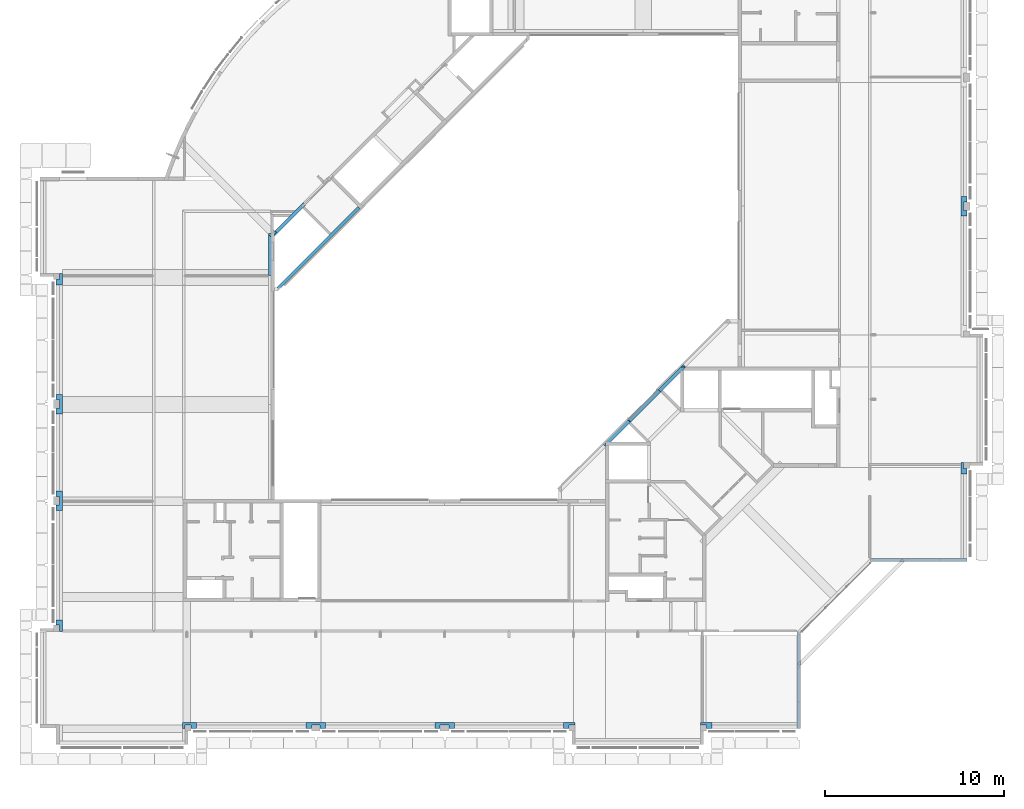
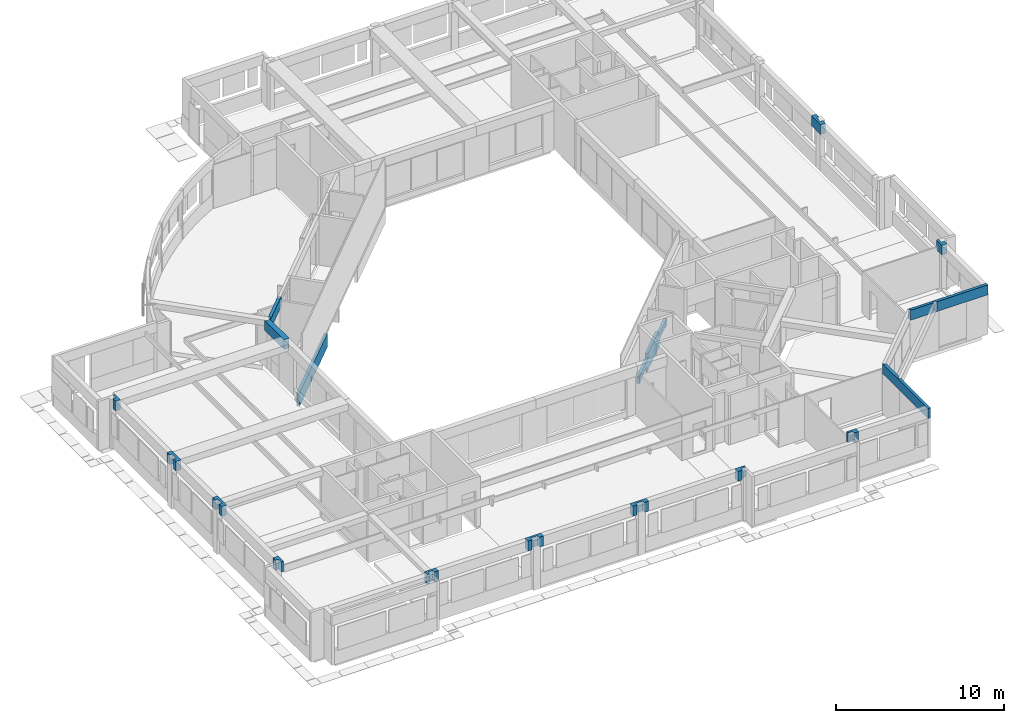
# One storey, part 19 of 26: 17 beams.
"""IFC4X3_ADD2 building model written with IfcOpenShell, lengths in millimetres."""

from ifc_helpers import new_model, si_unit, direction, frame, origin_with_axes, place, context, subcontext, project, spatial, polygons, source, transform, mapped, material, type_object, type_shapes, element, save


model = new_model("IFC4X3_ADD2")

# Units and contexts
model_context = context("Model", 3, precision=1e-05, world=origin_with_axes(), true_north=direction((0.0, 1.0)))
body_context = subcontext(model_context, "Body", "Model", "MODEL_VIEW")
ifc_project = project(units=[si_unit("LENGTHUNIT", "METRE", prefix="MILLI"), si_unit("AREAUNIT", "SQUARE_METRE"), si_unit("VOLUMEUNIT", "CUBIC_METRE"), si_unit("PLANEANGLEUNIT", "RADIAN"), si_unit("TIMEUNIT", "SECOND"), si_unit("MASSUNIT", "GRAM")], contexts=[model_context])

# Site, building, storey
site_placement = place(None, origin_with_axes())
site = spatial("IfcSite", under=ifc_project, at=site_placement, Name="Site", CompositionType="ELEMENT")
building_placement = place(site_placement, origin_with_axes())
building = spatial("IfcBuilding", under=site, at=building_placement, Name="IFC Building Story")
storey_placement = place(building_placement, frame((0.0, 0.0, 7200.0), z_axis=(0.0, 0.0, 1.0), x_axis=(1.0, 0.0, 0.0)))
storey = spatial("IfcBuildingStorey", under=building, at=storey_placement, Name="020", Elevation=7200.0)

# Beams
ifc_material = material(Name="BB_Beton_Bestaand")
beam_type_1 = type_object("IfcBeamType", Name="BB_XX_Betonbalk_ rechthoekig_ center-center_SFB_340 x 720 mm157", PredefinedType="NOTDEFINED")
shared_shape_1 = source(origin_with_axes(), body_context, "Body", "Tessellation", [
    polygons([(-4.33146851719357e-12, 340.000000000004, 720.000000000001), (-4.33146851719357e-12, 340.000000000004, 0.0), (-4.33146851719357e-12, 3.51931817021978e-12, 0.0), (-4.33146851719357e-12, 3.51931817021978e-12, 720.000000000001), (1090.00000000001, 340.000000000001, 720.000000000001), (1090.00000000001, 0.0, 720.000000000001), (1090.00000000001, 0.0, 0.0), (1090.00000000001, 340.000000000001, 0.0), (789.999999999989, 0.0, 0.0), (789.999999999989, 190.000000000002, 0.0), (300.00000000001, 190.000000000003, 0.0), (300.00000000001, 2.5548896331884e-12, 0.0), (300.00000000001, 2.5548896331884e-12, 720.000000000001), (300.00000000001, 190.000000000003, 720.000000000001), (789.999999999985, 190.000000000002, 720.000000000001), (789.999999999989, 0.0, 720.000000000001)], [[[1, 2, 3, 4]], [[5, 6, 7, 8]], [[2, 1, 5, 8]], [[11, 12, 3]], [[11, 3, 2]], [[2, 8, 10]], [[2, 10, 11]], [[8, 7, 9]], [[8, 9, 10]], [[4, 3, 12, 13]], [[15, 16, 6]], [[15, 6, 5]], [[5, 1, 14]], [[5, 14, 15]], [[1, 4, 13]], [[1, 13, 14]], [[11, 14, 13, 12]], [[14, 11, 10, 15]], [[15, 10, 9, 16]], [[7, 6, 16, 9]]]),
])
type_shapes(beam_type_1, [shared_shape_1])
beam_1_placement = place(storey_placement, frame((-36845.0, -95.0, 2680.0), z_axis=(0.0, 0.0, 1.0), x_axis=(1.0, 0.0, 0.0)))
element("IfcBeam", 1, at=beam_1_placement, inside=storey, type_object=beam_type_1, material=ifc_material, Name="BB_XX_Betonbalk, rechthoekig, center-center_SFB:340 x 720 mm", ObjectType="BB_XX_Betonbalk, rechthoekig, center-center_SFB:340 x 720 mm", PredefinedType="BEAM", context=body_context, shape_type="MappedRepresentation", body=[
    mapped(shared_shape_1, transform((0.0, 0.0, 0.0))),
])
beam_type_2 = type_object("IfcBeamType", Name="BB_XX_Betonbalk_ rechthoekig_ center-center_SFB_340 x 720 mm159", PredefinedType="NOTDEFINED")
shared_shape_2 = source(origin_with_axes(), body_context, "Body", "Tessellation", [
    polygons([(-4.33146851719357e-12, 340.000000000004, 720.000000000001), (-4.33146851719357e-12, 340.000000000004, 0.0), (-4.33146851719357e-12, 3.53623796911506e-12, 0.0), (-4.33146851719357e-12, 3.53623796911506e-12, 720.000000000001), (1090.0, 340.000000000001, 720.000000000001), (1090.0, 0.0, 720.000000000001), (1090.0, 0.0, 0.0), (1090.0, 340.000000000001, 0.0), (789.999999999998, 0.0, 0.0), (789.999999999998, 190.0, 0.0), (299.999999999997, 190.0, 0.0), (299.999999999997, 2.57180943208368e-12, 0.0), (299.999999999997, 2.5548896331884e-12, 720.000000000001), (299.999999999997, 190.0, 720.000000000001), (789.999999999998, 190.0, 720.000000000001), (789.999999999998, 0.0, 720.000000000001)], [[[1, 2, 3, 4]], [[5, 6, 7, 8]], [[2, 1, 5, 8]], [[11, 12, 3]], [[11, 3, 2]], [[2, 8, 10]], [[2, 10, 11]], [[8, 7, 9]], [[8, 9, 10]], [[4, 3, 12, 13]], [[15, 16, 6]], [[15, 6, 5]], [[5, 1, 14]], [[5, 14, 15]], [[1, 4, 13]], [[1, 13, 14]], [[15, 10, 9, 16]], [[10, 15, 14, 11]], [[11, 14, 13, 12]], [[7, 6, 16, 9]]]),
])
type_shapes(beam_type_2, [shared_shape_2])
beam_2_placement = place(storey_placement, frame((-29645.0, -95.0, 2680.0), z_axis=(0.0, 0.0, 1.0), x_axis=(1.0, 0.0, 0.0)))
element("IfcBeam", 2, at=beam_2_placement, inside=storey, type_object=beam_type_2, material=ifc_material, Name="BB_XX_Betonbalk, rechthoekig, center-center_SFB:340 x 720 mm", ObjectType="BB_XX_Betonbalk, rechthoekig, center-center_SFB:340 x 720 mm", PredefinedType="BEAM", context=body_context, shape_type="MappedRepresentation", body=[
    mapped(shared_shape_2, transform((0.0, 0.0, 0.0))),
])
beam_type_3 = type_object("IfcBeamType", Name="BB_XX_Betonbalk_ rechthoekig_ center-center_SFB_340 x 720 mm161", PredefinedType="NOTDEFINED")
shared_shape_3 = source(origin_with_axes(), body_context, "Body", "Tessellation", [
    polygons([(0.0, 340.000000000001, 720.000000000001), (0.0, 340.000000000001, 0.0), (0.0, 0.0, 0.0), (0.0, 0.0, 720.000000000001), (639.999999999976, 339.999999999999, 0.0), (639.999999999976, 339.999999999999, 720.000000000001), (639.999999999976, 190.0, 720.000000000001), (639.999999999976, 190.0, 0.0), (300.000000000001, 190.0, 0.0), (300.000000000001, 0.0, 0.0), (300.000000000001, 0.0, 720.000000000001), (300.000000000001, 190.0, 720.000000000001)], [[[1, 2, 3, 4]], [[5, 6, 7, 8]], [[2, 1, 6, 5]], [[9, 10, 3]], [[9, 3, 2]], [[2, 5, 8]], [[2, 8, 9]], [[4, 3, 10, 11]], [[12, 7, 6]], [[12, 6, 1]], [[1, 4, 11]], [[1, 11, 12]], [[9, 12, 11, 10]], [[12, 9, 8, 7]]]),
])
type_shapes(beam_type_3, [shared_shape_3])
beam_3_placement = place(storey_placement, frame((-22445.0, -95.0, 2680.0), z_axis=(0.0, 0.0, 1.0), x_axis=(1.0, 0.0, 0.0)))
element("IfcBeam", 3, at=beam_3_placement, inside=storey, type_object=beam_type_3, material=ifc_material, Name="BB_XX_Betonbalk, rechthoekig, center-center_SFB:340 x 720 mm", ObjectType="BB_XX_Betonbalk, rechthoekig, center-center_SFB:340 x 720 mm", PredefinedType="BEAM", context=body_context, shape_type="MappedRepresentation", body=[
    mapped(shared_shape_3, transform((0.0, 0.0, 0.0))),
])
beam_type_4 = type_object("IfcBeamType", Name="BB_XX_Betonbalk_ rechthoekig_ center-center_SFB_340 x 720 mm163", PredefinedType="NOTDEFINED")
shared_shape_4 = source(origin_with_axes(), body_context, "Body", "Tessellation", [
    polygons([(2.16573425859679e-12, 340.000000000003, 720.000000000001), (2.16573425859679e-12, 340.000000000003, 0.0), (2.16573425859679e-12, 190.000000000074, 0.0), (2.16573425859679e-12, 190.000000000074, 720.000000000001), (639.999999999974, 340.000000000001, 720.000000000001), (639.999999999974, 0.0, 720.000000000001), (639.999999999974, 0.0, 0.0), (639.999999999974, 340.000000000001, 0.0), (339.999999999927, 0.0, 0.0), (339.999999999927, 190.000000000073, 0.0), (339.999999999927, 0.0, 720.000000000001), (339.999999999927, 190.000000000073, 720.000000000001)], [[[1, 2, 3, 4]], [[5, 6, 7, 8]], [[2, 1, 5, 8]], [[10, 3, 2]], [[10, 2, 8]], [[8, 7, 9]], [[8, 9, 10]], [[7, 6, 11, 9]], [[12, 11, 6]], [[12, 6, 5]], [[5, 1, 4]], [[5, 4, 12]], [[10, 12, 4, 3]], [[12, 10, 9, 11]]]),
])
type_shapes(beam_type_4, [shared_shape_4])
beam_4_placement = place(storey_placement, frame((-14795.0, -95.0, 2680.0), z_axis=(0.0, 0.0, 1.0), x_axis=(1.0, 0.0, 0.0)))
element("IfcBeam", 4, at=beam_4_placement, inside=storey, type_object=beam_type_4, material=ifc_material, Name="BB_XX_Betonbalk, rechthoekig, center-center_SFB:340 x 720 mm", ObjectType="BB_XX_Betonbalk, rechthoekig, center-center_SFB:340 x 720 mm", PredefinedType="BEAM", context=body_context, shape_type="MappedRepresentation", body=[
    mapped(shared_shape_4, transform((0.0, 0.0, 0.0))),
])
beam_type_5 = type_object("IfcBeamType", Name="BB_XX_Betonbalk_ rechthoekig_ center-center_SFB_190 x 720 mm23", PredefinedType="NOTDEFINED")
shared_shape_5 = source(origin_with_axes(), body_context, "Body", "Tessellation", [
    polygons([(189.999999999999, 0.0, 720.000000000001), (1.08286712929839e-12, 0.0, 720.000000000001), (1.08286712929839e-12, 0.0, 0.0), (190.0, 0.0, 0.0), (190.00000000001, 5319.99999999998, 0.0), (190.00000000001, 5319.99999999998, 720.000000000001), (190.000000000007, 3767.6955262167, 720.000000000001), (190.000000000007, 3767.6955262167, 150.0), (190.000000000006, 3498.99494936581, 150.0), (190.000000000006, 3498.99494936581, 720.000000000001), (1.06120978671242e-10, 5385.00000000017, 0.0), (127.500000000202, 5257.50000000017, 0.0), (1.06120978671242e-10, 5385.00000000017, 720.000000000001), (171.512413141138, 3480.50736250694, 720.000000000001), (37.1621247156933, 3614.85765093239, 720.000000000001), (127.500000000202, 5257.50000000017, 720.000000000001), (37.1621247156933, 3614.85765093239, 150.0), (171.512413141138, 3480.50736250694, 150.0)], [[[1, 2, 3, 4]], [[9, 10, 1]], [[9, 1, 4]], [[4, 8, 9]], [[4, 5, 8]], [[5, 6, 7]], [[5, 7, 8]], [[12, 5, 4]], [[4, 3, 11]], [[4, 11, 12]], [[3, 2, 13, 11]], [[16, 13, 15]], [[16, 15, 7]], [[7, 6, 16]], [[15, 13, 2]], [[2, 1, 14]], [[2, 14, 15]], [[1, 10, 14]], [[16, 12, 11, 13]], [[12, 16, 6, 5]], [[17, 15, 14, 18]], [[18, 14, 10, 9]], [[17, 18, 9, 8]], [[15, 17, 8, 7]]]),
])
type_shapes(beam_type_5, [shared_shape_5])
beam_5_placement = place(storey_placement, frame((-9415.0, -95.0, 2680.0), z_axis=(0.0, 0.0, 1.0), x_axis=(1.0, 0.0, 0.0)))
element("IfcBeam", 5, at=beam_5_placement, inside=storey, type_object=beam_type_5, material=ifc_material, Name="BB_XX_Betonbalk, rechthoekig, center-center_SFB:190 x 720 mm", ObjectType="BB_XX_Betonbalk, rechthoekig, center-center_SFB:190 x 720 mm", PredefinedType="BEAM", context=body_context, shape_type="MappedRepresentation", body=[
    mapped(shared_shape_5, transform((0.0, 0.0, 0.0))),
])
beam_type_6 = type_object("IfcBeamType", Name="BB_XX_Betonbalk_ rechthoekig_ center-center_SFB_340 x 720 mm165", PredefinedType="NOTDEFINED")
shared_shape_6 = source(origin_with_axes(), body_context, "Body", "Tessellation", [
    polygons([(339.999999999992, 0.0, 0.0), (339.999999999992, 0.0, 720.000000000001), (190.0, 0.0, 720.000000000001), (190.0, 0.0, 0.0), (-8.66293703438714e-12, 640.0, 720.000000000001), (339.999999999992, 640.0, 720.000000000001), (339.999999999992, 640.0, 0.0), (-8.66293703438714e-12, 640.0, 0.0), (0.0, 340.000000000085, 0.0), (-8.66293703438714e-12, 340.000000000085, 720.000000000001), (190.0, 340.000000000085, 0.0), (190.0, 340.000000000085, 720.000000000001)], [[[1, 2, 3, 4]], [[5, 6, 7, 8]], [[5, 8, 9, 10]], [[11, 9, 8]], [[11, 8, 7]], [[7, 1, 4]], [[7, 4, 11]], [[2, 1, 7, 6]], [[12, 3, 2]], [[12, 2, 6]], [[6, 5, 10]], [[6, 10, 12]], [[12, 11, 4, 3]], [[11, 12, 10, 9]]]),
])
type_shapes(beam_type_6, [shared_shape_6])
beam_6_placement = place(storey_placement, frame((-50795.0, 5335.0, 2680.0), z_axis=(0.0, 0.0, 1.0), x_axis=(1.0, 0.0, 0.0)))
element("IfcBeam", 6, at=beam_6_placement, inside=storey, type_object=beam_type_6, material=ifc_material, Name="BB_XX_Betonbalk, rechthoekig, center-center_SFB:340 x 720 mm", ObjectType="BB_XX_Betonbalk, rechthoekig, center-center_SFB:340 x 720 mm", PredefinedType="BEAM", context=body_context, shape_type="MappedRepresentation", body=[
    mapped(shared_shape_6, transform((0.0, 0.0, 0.0))),
])
beam_type_7 = type_object("IfcBeamType", Name="BB_XX_Betonbalk_ rechthoekig_ center-center_SFB_340 x 720 mm169", PredefinedType="NOTDEFINED")
shared_shape_7 = source(origin_with_axes(), body_context, "Body", "Tessellation", [
    polygons([(340.000000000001, 1090.0, 720.000000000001), (340.000000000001, 1090.0, 0.0), (0.0, 1090.0, 0.0), (0.0, 1090.0, 720.000000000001), (340.000000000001, 0.0, 720.000000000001), (0.0, 0.0, 720.000000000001), (0.0, 0.0, 0.0), (340.000000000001, 0.0, 0.0), (0.0, 300.000000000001, 0.0), (190.000000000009, 300.000000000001, 0.0), (190.000000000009, 789.999999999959, 0.0), (0.0, 789.999999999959, 0.0), (0.0, 789.999999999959, 720.000000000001), (190.000000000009, 789.999999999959, 720.000000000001), (190.000000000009, 300.000000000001, 720.000000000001), (0.0, 300.000000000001, 720.000000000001)], [[[1, 2, 3, 4]], [[5, 6, 7, 8]], [[2, 1, 5, 8]], [[11, 12, 3]], [[11, 3, 2]], [[2, 8, 10]], [[2, 10, 11]], [[8, 7, 9]], [[8, 9, 10]], [[4, 3, 12, 13]], [[15, 16, 6]], [[15, 6, 5]], [[5, 1, 14]], [[5, 14, 15]], [[1, 4, 13]], [[1, 13, 14]], [[10, 15, 14, 11]], [[11, 14, 13, 12]], [[15, 10, 9, 16]], [[7, 6, 16, 9]]]),
])
type_shapes(beam_type_7, [shared_shape_7])
beam_7_placement = place(storey_placement, frame((-50795.0, 12085.0, 2680.0), z_axis=(0.0, 0.0, 1.0), x_axis=(1.0, 0.0, 0.0)))
element("IfcBeam", 7, at=beam_7_placement, inside=storey, type_object=beam_type_7, material=ifc_material, Name="BB_XX_Betonbalk, rechthoekig, center-center_SFB:340 x 720 mm", ObjectType="BB_XX_Betonbalk, rechthoekig, center-center_SFB:340 x 720 mm", PredefinedType="BEAM", context=body_context, shape_type="MappedRepresentation", body=[
    mapped(shared_shape_7, transform((0.0, 0.0, 0.0))),
])
beam_type_8 = type_object("IfcBeamType", Name="BB_XX_Betonbalk_ rechthoekig_ center-center_SFB_340 x 720 mm171", PredefinedType="NOTDEFINED")
shared_shape_8 = source(origin_with_axes(), body_context, "Body", "Tessellation", [
    polygons([(339.999999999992, 1090.0, 720.000000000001), (339.999999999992, 1090.0, 0.0), (-8.66293703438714e-12, 1090.0, 0.0), (-8.66293703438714e-12, 1090.0, 720.000000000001), (339.999999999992, 0.0, 720.000000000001), (-8.66293703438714e-12, 0.0, 720.000000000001), (-8.66293703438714e-12, 0.0, 0.0), (339.999999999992, 0.0, 0.0), (-8.66293703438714e-12, 300.000000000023, 0.0), (190.0, 300.000000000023, 0.0), (190.0, 789.999999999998, 0.0), (-8.66293703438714e-12, 789.999999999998, 0.0), (-8.66293703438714e-12, 789.999999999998, 720.000000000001), (190.0, 789.999999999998, 720.000000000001), (190.0, 300.000000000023, 720.000000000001), (-8.66293703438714e-12, 300.000000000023, 720.000000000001)], [[[1, 2, 3, 4]], [[5, 6, 7, 8]], [[2, 1, 5, 8]], [[11, 12, 3]], [[11, 3, 2]], [[2, 8, 10]], [[2, 10, 11]], [[8, 7, 9]], [[8, 9, 10]], [[4, 3, 12, 13]], [[15, 16, 6]], [[15, 6, 5]], [[5, 1, 14]], [[5, 14, 15]], [[1, 4, 13]], [[1, 13, 14]], [[10, 15, 14, 11]], [[11, 14, 13, 12]], [[15, 10, 9, 16]], [[7, 6, 16, 9]]]),
])
type_shapes(beam_type_8, [shared_shape_8])
beam_8_placement = place(storey_placement, frame((-50795.0, 17485.0, 2680.0), z_axis=(0.0, 0.0, 1.0), x_axis=(1.0, 0.0, 0.0)))
element("IfcBeam", 8, at=beam_8_placement, inside=storey, type_object=beam_type_8, material=ifc_material, Name="BB_XX_Betonbalk, rechthoekig, center-center_SFB:340 x 720 mm", ObjectType="BB_XX_Betonbalk, rechthoekig, center-center_SFB:340 x 720 mm", PredefinedType="BEAM", context=body_context, shape_type="MappedRepresentation", body=[
    mapped(shared_shape_8, transform((0.0, 0.0, 0.0))),
])
beam_type_9 = type_object("IfcBeamType", Name="BB_XX_Betonbalk_ rechthoekig_ center-center_SFB_340 x 720 mm173", PredefinedType="NOTDEFINED")
shared_shape_9 = source(origin_with_axes(), body_context, "Body", "Tessellation", [
    polygons([(340.000000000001, 640.000000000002, 720.000000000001), (340.000000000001, 640.000000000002, 0.0), (190.000000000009, 640.000000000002, 0.0), (190.000000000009, 640.000000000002, 720.000000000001), (340.000000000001, 0.0, 720.000000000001), (0.0, 0.0, 720.000000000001), (0.0, 0.0, 0.0), (340.000000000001, 0.0, 0.0), (0.0, 300.000000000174, 0.0), (190.000000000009, 300.000000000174, 0.0), (0.0, 300.000000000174, 720.000000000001), (190.000000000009, 300.000000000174, 720.000000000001)], [[[1, 2, 3, 4]], [[5, 6, 7, 8]], [[2, 1, 5, 8]], [[10, 3, 2]], [[10, 2, 8]], [[8, 7, 9]], [[8, 9, 10]], [[7, 6, 11, 9]], [[12, 11, 6]], [[12, 6, 5]], [[5, 1, 4]], [[5, 4, 12]], [[10, 12, 4, 3]], [[12, 10, 9, 11]]]),
])
type_shapes(beam_type_9, [shared_shape_9])
beam_9_placement = place(storey_placement, frame((-50795.0, 24685.0, 2680.0), z_axis=(0.0, 0.0, 1.0), x_axis=(1.0, 0.0, 0.0)))
element("IfcBeam", 9, at=beam_9_placement, inside=storey, type_object=beam_type_9, material=ifc_material, Name="BB_XX_Betonbalk, rechthoekig, center-center_SFB:340 x 720 mm", ObjectType="BB_XX_Betonbalk, rechthoekig, center-center_SFB:340 x 720 mm", PredefinedType="BEAM", context=body_context, shape_type="MappedRepresentation", body=[
    mapped(shared_shape_9, transform((0.0, 0.0, 0.0))),
])
beam_type_10 = type_object("IfcBeamType", Name="BB_XX_Betonbalk_ rechthoekig_ center-center_SFB_190 x 720 mm25", PredefinedType="NOTDEFINED")
shared_shape_10 = source(origin_with_axes(), body_context, "Body", "Tessellation", [
    polygons([(5384.99999999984, 189.999999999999, 720.000000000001), (5384.99999999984, 1.08286712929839e-12, 720.000000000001), (5384.99999999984, 1.08286712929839e-12, 0.0), (5384.99999999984, 190.0, 0.0), (1.08286712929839e-11, 190.000000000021, 0.0), (1.08286712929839e-11, 190.000000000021, 720.000000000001), (64.9999999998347, 1.84087411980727e-11, 0.0), (127.49999999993, 62.5000000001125, 0.0), (1886.005050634, 1.19115384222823e-11, 720.000000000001), (1886.005050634, 1.19115384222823e-11, 150.0), (1617.30447378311, 1.40772726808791e-11, 150.0), (1617.30447378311, 1.40772726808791e-11, 720.000000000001), (64.9999999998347, 1.84087411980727e-11, 720.000000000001), (127.49999999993, 62.5000000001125, 720.000000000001), (1763.47073903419, 146.166265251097, 720.000000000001), (1897.82102745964, 11.8159768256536, 720.000000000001), (1897.82102745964, 11.8159768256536, 150.0), (1763.47073903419, 146.166265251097, 150.0)], [[[1, 2, 3, 4]], [[1, 4, 5, 6]], [[8, 5, 4]], [[8, 4, 3]], [[3, 7, 8]], [[11, 12, 13]], [[11, 13, 7]], [[7, 10, 11]], [[10, 7, 3]], [[3, 2, 9]], [[3, 9, 10]], [[14, 13, 12]], [[16, 9, 2]], [[2, 1, 15]], [[2, 15, 16]], [[1, 6, 15]], [[6, 14, 12]], [[6, 12, 15]], [[8, 14, 6, 5]], [[14, 8, 7, 13]], [[17, 16, 15, 18]], [[16, 17, 10, 9]], [[17, 18, 11, 10]], [[18, 15, 12, 11]]]),
])
type_shapes(beam_type_10, [shared_shape_10])
beam_10_placement = place(storey_placement, frame((-5290.0, 9225.0, 2680.0), z_axis=(0.0, 0.0, 1.0), x_axis=(1.0, 0.0, 0.0)))
element("IfcBeam", 10, at=beam_10_placement, inside=storey, type_object=beam_type_10, material=ifc_material, Name="BB_XX_Betonbalk, rechthoekig, center-center_SFB:190 x 720 mm", ObjectType="BB_XX_Betonbalk, rechthoekig, center-center_SFB:190 x 720 mm", PredefinedType="BEAM", context=body_context, shape_type="MappedRepresentation", body=[
    mapped(shared_shape_10, transform((0.0, 0.0, 0.0))),
])
beam_type_11 = type_object("IfcBeamType", Name="BB_XX_Betonbalk_ rechthoekig_ center-center_SFB_340 x 720 mm189", PredefinedType="NOTDEFINED")
shared_shape_11 = source(origin_with_axes(), body_context, "Body", "Tessellation", [
    polygons([(340.000000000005, 2350.0, 4.33146851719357e-12), (290.000000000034, 2350.0, 4.33146851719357e-12), (235.18723239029, 2350.0, 4.33146851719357e-12), (199.163056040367, 2350.0, 4.33146851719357e-12), (150.000000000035, 2350.0, 4.33146851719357e-12), (4.33146851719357e-12, 2350.0, 4.33146851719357e-12), (4.33146851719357e-12, 2350.0, 320.00000000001), (150.000000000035, 2350.0, 320.00000000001), (235.187232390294, 2350.0, 320.00000000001), (290.000000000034, 2350.0, 320.00000000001), (340.000000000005, 2350.0, 320.00000000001), (340.000000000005, 4.33146851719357e-12, 720.000000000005), (4.33146851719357e-12, 4.33146851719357e-12, 720.000000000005), (4.33146851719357e-12, 4.33146851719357e-12, 4.33146851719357e-12), (340.000000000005, 4.33146851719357e-12, 4.33146851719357e-12), (340.000000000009, 2245.18723239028, 4.33146851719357e-12), (340.000000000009, 2305.49463840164, 320.00000000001), (340.000000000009, 2305.49463840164, 720.000000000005), (340.000000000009, 2245.18723239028, 720.000000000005), (1.29944055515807e-11, 2322.13208940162, 720.000000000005), (1.29944055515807e-11, 2322.13208940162, 320.00000000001), (178.318725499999, 2143.81336390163, 720.000000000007), (178.318725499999, 2143.81336390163, 320.00000000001)], [[[5, 6, 7]], [[5, 7, 8]], [[8, 9, 4]], [[8, 4, 5]], [[9, 3, 4]], [[9, 10, 2]], [[9, 2, 3]], [[10, 11, 1]], [[10, 1, 2]], [[12, 13, 14, 15]], [[17, 18, 19]], [[17, 19, 16]], [[16, 1, 17]], [[1, 11, 17]], [[19, 12, 15]], [[19, 15, 16]], [[16, 15, 2]], [[2, 1, 16]], [[15, 3, 2]], [[15, 4, 3]], [[15, 14, 5]], [[15, 5, 4]], [[14, 6, 5]], [[21, 7, 6]], [[21, 6, 14]], [[14, 13, 20]], [[14, 20, 21]], [[19, 18, 22]], [[22, 20, 13]], [[22, 13, 12]], [[12, 19, 22]], [[23, 22, 18, 17]], [[22, 23, 21, 20]], [[8, 7, 21]], [[21, 23, 17]], [[21, 17, 9]], [[21, 9, 8]], [[17, 10, 9]], [[17, 11, 10]]]),
])
type_shapes(beam_type_11, [shared_shape_11])
beam_11_placement = place(storey_placement, frame((-38945.0, 25200.0, 2680.0), z_axis=(0.0, 0.0, 1.0), x_axis=(1.0, 0.0, 0.0)))
element("IfcBeam", 11, at=beam_11_placement, inside=storey, type_object=beam_type_11, material=ifc_material, Name="BB_XX_Betonbalk, rechthoekig, center-center_SFB:340 x 720 mm", ObjectType="BB_XX_Betonbalk, rechthoekig, center-center_SFB:340 x 720 mm", PredefinedType="BEAM", context=body_context, shape_type="MappedRepresentation", body=[
    mapped(shared_shape_11, transform((0.0, 0.0, 0.0))),
])
beam_type_12 = type_object("IfcBeamType", Name="BB_XX_Betonbalk_ rechthoekig_ center-center_SFB_340 x 720 mm199", PredefinedType="NOTDEFINED")
shared_shape_12 = source(origin_with_axes(), body_context, "Body", "Tessellation", [
    polygons([(790.000000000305, 0.0, 720.000000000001), (790.000000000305, 0.0, 0.0), (790.000000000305, 340.000000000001, 0.0), (790.000000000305, 340.000000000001, 720.000000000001), (0.0, 3.09632319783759e-12, 720.000000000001), (0.0, 340.000000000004, 720.000000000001), (0.0, 340.000000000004, 0.0), (0.0, 3.09632319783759e-12, 0.0), (490.00000000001, 1.18438592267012e-12, 720.000000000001), (490.00000000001, 1.18438592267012e-12, 0.0), (490.00000000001, 190.000000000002, 0.0), (150.0, 190.000000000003, 0.0), (150.0, 2.50413023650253e-12, 0.0), (150.0, 2.50413023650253e-12, 720.000000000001), (150.0, 190.000000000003, 720.000000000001), (490.00000000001, 190.000000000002, 720.000000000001)], [[[1, 2, 3, 4]], [[5, 6, 7, 8]], [[2, 1, 9, 10]], [[12, 13, 8]], [[12, 8, 7]], [[7, 3, 11]], [[7, 11, 12]], [[3, 2, 10]], [[3, 10, 11]], [[4, 3, 7, 6]], [[16, 9, 1]], [[16, 1, 4]], [[4, 6, 15]], [[4, 15, 16]], [[6, 5, 14]], [[6, 14, 15]], [[16, 11, 10, 9]], [[11, 16, 15, 12]], [[12, 15, 14, 13]], [[5, 8, 13, 14]]]),
])
type_shapes(beam_type_12, [shared_shape_12])
beam_12_placement = place(storey_placement, frame((-43745.0, -95.0, 2680.0), z_axis=(0.0, 0.0, 1.0), x_axis=(1.0, 0.0, 0.0)))
element("IfcBeam", 12, at=beam_12_placement, inside=storey, type_object=beam_type_12, material=ifc_material, Name="BB_XX_Betonbalk, rechthoekig, center-center_SFB:340 x 720 mm", ObjectType="BB_XX_Betonbalk, rechthoekig, center-center_SFB:340 x 720 mm", PredefinedType="BEAM", context=body_context, shape_type="MappedRepresentation", body=[
    mapped(shared_shape_12, transform((0.0, 0.0, 0.0))),
])
beam_type_13 = type_object("IfcBeamType", Name="BB_XX_Betonbalk_ rechthoekig_ center-center_SFB_200 x 720 mm37", PredefinedType="NOTDEFINED")
shared_shape_13 = source(origin_with_axes(), body_context, "Body", "Tessellation", [
    polygons([(1871.13131605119, 1729.70995981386, 0.0), (1871.13131605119, 1729.70995981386, -720.000000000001), (1729.70995981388, 1871.13131605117, -720.000000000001), (1729.70995981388, 1871.13131605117, 0.0), (141.421356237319, 0.0, -720.000000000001), (141.421356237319, 0.0, 0.0), (122.824855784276, 18.5965004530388, 0.0), (122.824855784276, 18.5965004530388, -720.000000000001), (122.824855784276, 123.409268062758, -720.000000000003), (18.0120881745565, 123.409268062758, -720.000000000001), (1.29944055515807e-11, 141.42135623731, -720.000000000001), (4.33146851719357e-12, 141.42135623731, -400.0), (151.315140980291, 292.736497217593, -400.0), (151.315140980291, 292.736497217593, 0.0), (243.986293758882, 200.065344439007, 0.0), (122.824855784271, 78.9039064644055, 0.0), (243.986293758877, 200.065344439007, -400.0), (122.824855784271, 78.9039064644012, -400.0), (18.0120881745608, 123.409268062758, -400.0), (122.824855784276, 123.409268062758, -400.0)], [[[1, 2, 3, 4]], [[5, 6, 7, 8]], [[2, 1, 6, 5]], [[9, 10, 11]], [[9, 11, 3]], [[3, 2, 5]], [[3, 5, 8]], [[3, 8, 9]], [[13, 14, 4]], [[13, 4, 3]], [[3, 11, 13]], [[11, 12, 13]], [[15, 16, 7]], [[15, 7, 6]], [[15, 6, 1]], [[1, 4, 14]], [[1, 14, 15]], [[15, 17, 18, 16]], [[20, 18, 17]], [[17, 13, 12]], [[17, 12, 19]], [[17, 19, 20]], [[17, 15, 14, 13]], [[9, 20, 19, 10]], [[18, 20, 9]], [[18, 9, 8]], [[8, 7, 16]], [[8, 16, 18]], [[12, 11, 10, 19]]]),
])
type_shapes(beam_type_13, [shared_shape_13])
beam_13_placement = place(storey_placement, frame((-38727.8248557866, 27426.5907319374, 3400.0), z_axis=(0.0, 0.0, 1.0), x_axis=(1.0, 0.0, 0.0)))
element("IfcBeam", 13, at=beam_13_placement, inside=storey, type_object=beam_type_13, material=ifc_material, Name="BB_XX_Betonbalk, rechthoekig, center-center_SFB:200 x 720 mm", ObjectType="BB_XX_Betonbalk, rechthoekig, center-center_SFB:200 x 720 mm", PredefinedType="BEAM", context=body_context, shape_type="MappedRepresentation", body=[
    mapped(shared_shape_13, transform((0.0, 0.0, 0.0))),
])
beam_type_14 = type_object("IfcBeamType", Name="BB_XX_Betonbalk_ rechthoekig_ center-center_SFB_340 x 720 mm201", PredefinedType="NOTDEFINED")
shared_shape_14 = source(origin_with_axes(), body_context, "Body", "Tessellation", [
    polygons([(0.0, 0.0, 720.000000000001), (0.0, 0.0, 0.0), (340.000000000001, 0.0, 0.0), (340.000000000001, 0.0, 720.000000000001), (1.75965908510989e-12, 1090.0, 720.000000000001), (340.000000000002, 1090.0, 720.000000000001), (340.000000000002, 1090.0, 0.0), (1.75965908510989e-12, 1090.0, 0.0), (340.000000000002, 790.000000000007, 0.0), (149.999999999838, 790.000000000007, 0.0), (149.999999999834, 300.000000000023, 0.0), (340.000000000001, 300.000000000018, 0.0), (340.000000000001, 300.000000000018, 720.000000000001), (149.999999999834, 300.000000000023, 720.000000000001), (149.999999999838, 790.000000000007, 720.000000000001), (340.000000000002, 790.000000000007, 720.000000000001)], [[[1, 2, 3, 4]], [[5, 6, 7, 8]], [[2, 1, 5, 8]], [[11, 12, 3]], [[11, 3, 2]], [[2, 8, 10]], [[2, 10, 11]], [[8, 7, 9]], [[8, 9, 10]], [[4, 3, 12, 13]], [[15, 16, 6]], [[15, 6, 5]], [[5, 1, 14]], [[5, 14, 15]], [[1, 4, 13]], [[1, 13, 14]], [[11, 14, 13, 12]], [[15, 10, 9, 16]], [[14, 11, 10, 15]], [[7, 6, 16, 9]]]),
])
type_shapes(beam_type_14, [shared_shape_14])
beam_14_placement = place(storey_placement, frame((-245.0, 28535.0, 2680.0), z_axis=(0.0, 0.0, 1.0), x_axis=(1.0, 0.0, 0.0)))
element("IfcBeam", 14, at=beam_14_placement, inside=storey, type_object=beam_type_14, material=ifc_material, Name="BB_XX_Betonbalk, rechthoekig, center-center_SFB:340 x 720 mm", ObjectType="BB_XX_Betonbalk, rechthoekig, center-center_SFB:340 x 720 mm", PredefinedType="BEAM", context=body_context, shape_type="MappedRepresentation", body=[
    mapped(shared_shape_14, transform((0.0, 0.0, 0.0))),
])
beam_type_15 = type_object("IfcBeamType", Name="BB_XX_Betonbalk_ rechthoekig_ center-center_SFB_340 x 720 mm209", PredefinedType="NOTDEFINED")
shared_shape_15 = source(origin_with_axes(), body_context, "Body", "Tessellation", [
    polygons([(0.0, 0.0, 720.000000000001), (0.0, 0.0, 0.0), (340.000000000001, 0.0, 0.0), (340.000000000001, 0.0, 720.000000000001), (1.04902753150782e-12, 640.000000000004, 0.0), (1.04902753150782e-12, 640.000000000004, 720.000000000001), (150.000000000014, 640.000000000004, 720.000000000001), (150.000000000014, 640.000000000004, 0.0), (150.000000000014, 300.000000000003, 0.0), (340.000000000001, 300.000000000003, 0.0), (340.000000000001, 300.000000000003, 720.000000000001), (150.000000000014, 300.000000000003, 720.000000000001)], [[[1, 2, 3, 4]], [[5, 6, 7, 8]], [[2, 1, 6, 5]], [[9, 10, 3]], [[9, 3, 2]], [[2, 5, 8]], [[2, 8, 9]], [[4, 3, 10, 11]], [[12, 7, 6]], [[12, 6, 1]], [[1, 4, 11]], [[1, 11, 12]], [[9, 12, 11, 10]], [[12, 9, 8, 7]]]),
])
type_shapes(beam_type_15, [shared_shape_15])
beam_15_placement = place(storey_placement, frame((-245.0, 14135.0, 2680.0), z_axis=(0.0, 0.0, 1.0), x_axis=(1.0, 0.0, 0.0)))
element("IfcBeam", 15, at=beam_15_placement, inside=storey, type_object=beam_type_15, material=ifc_material, Name="BB_XX_Betonbalk, rechthoekig, center-center_SFB:340 x 720 mm", ObjectType="BB_XX_Betonbalk, rechthoekig, center-center_SFB:340 x 720 mm", PredefinedType="BEAM", context=body_context, shape_type="MappedRepresentation", body=[
    mapped(shared_shape_15, transform((0.0, 0.0, 0.0))),
])
beam_type_16 = type_object("IfcBeamType", Name="BB_XX_Betonbalk_ rechthoekig_ center-center_SFB_190 x 1000 mm3", PredefinedType="NOTDEFINED")
shared_shape_16 = source(origin_with_axes(), body_context, "Body", "Tessellation", [
    polygons([(4657.8504130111, 4584.95891814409, 1000.0000000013), (4657.85041301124, 4584.95891814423, 1.30160628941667e-09), (4523.50012458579, 4719.30920656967, 1.30160628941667e-09), (4523.50012458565, 4719.30920656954, 1000.0000000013), (72.89149486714, 1.42938461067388e-10, 0.0), (72.8914948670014, 0.0, 1000.0), (72.2519174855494, 0.639577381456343, 1000.0), (72.2519174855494, 0.63957738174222, 0.0), (72.2519174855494, 195.809081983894, 2.16573425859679e-11), (4.33146851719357e-12, 195.809081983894, 1.84087411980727e-11), (4.33146851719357e-12, 195.809081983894, 1000.00000000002), (72.2519174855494, 195.809081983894, 1000.00000000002)], [[[1, 2, 3, 4]], [[5, 6, 7, 8]], [[2, 1, 6, 5]], [[9, 10, 3]], [[3, 2, 5]], [[3, 5, 8]], [[3, 8, 9]], [[4, 3, 10, 11]], [[12, 7, 6]], [[12, 6, 1]], [[12, 1, 4]], [[4, 11, 12]], [[12, 9, 8, 7]], [[9, 12, 11, 10]]]),
])
type_shapes(beam_type_16, [shared_shape_16])
beam_16_placement = place(storey_placement, frame((-38473.965971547, 24359.1909180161, -1200.0), z_axis=(0.0, 0.0, 1.0), x_axis=(1.0, 0.0, 0.0)))
element("IfcBeam", 16, at=beam_16_placement, inside=storey, type_object=beam_type_16, material=ifc_material, Name="BB_XX_Betonbalk, rechthoekig, center-center_SFB:190 x 1000 mm", ObjectType="BB_XX_Betonbalk, rechthoekig, center-center_SFB:190 x 1000 mm", PredefinedType="BEAM", context=body_context, shape_type="MappedRepresentation", body=[
    mapped(shared_shape_16, transform((0.0, 0.0, 0.0))),
])
beam_type_17 = type_object("IfcBeamType", Name="BB_XX_Betonbalk_ rechthoekig_ center-center_SFB_190 x 1180 mm1", PredefinedType="NOTDEFINED")
shared_shape_17 = source(origin_with_axes(), body_context, "Body", "Tessellation", [
    polygons([(0.0, 134.350288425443, 330.000000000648), (134.350288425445, 2.16573425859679e-12, 330.000000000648), (134.350288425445, 2.16573425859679e-12, 729.999999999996), (0.0, 134.350288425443, 729.999999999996), (4603.07872619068, 4468.72843776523, 330.000000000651), (4468.72843776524, 4603.07872619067, 330.000000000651), (4468.72843776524, 4603.07872619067, 729.999999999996), (4603.07872619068, 4468.72843776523, 729.999999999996), (1245.09175899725, 1379.44204742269, 0.0), (1245.09175899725, 1379.44204742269, 450.000000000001), (145.143595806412, 279.493884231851, 450.000000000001), (145.143595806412, 279.493884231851, 330.000000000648), (134.791933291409, 269.142221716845, 729.999999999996), (134.791933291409, 269.142221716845, 849.999999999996), (145.143595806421, 279.493884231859, 849.999999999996), (1389.41602272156, 1523.766311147, 849.999999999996), (1389.41602272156, 1523.766311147, 930.0), (1394.71932358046, 1529.06961200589, 930.0), (1394.71932358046, 1529.0696120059, 1180.0), (3080.7934285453, 3215.14371697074, 1180.0), (3080.79342854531, 3215.14371697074, 930.0), (3075.49012768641, 3209.84041611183, 930.0), (3075.49012768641, 3209.84041611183, 849.999999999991), (4319.79193329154, 4454.14222171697, 849.999999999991), (4330.14359580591, 4464.49388423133, 849.999999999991), (4330.14359580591, 4464.49388423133, 729.999999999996), (4130.14359580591, 4264.49388423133, 330.000000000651), (4130.14359580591, 4264.49388423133, 450.000000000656), (3222.48064244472, 3356.83093087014, 450.000000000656), (3222.48064244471, 3356.83093087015, 0.0), (3083.56939008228, 3217.91967850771, 0.0), (1389.44540141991, 1523.79568984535, 0.0), (3356.83093087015, 3222.4806424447, 0.0), (3217.91967850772, 3083.56939008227, 0.0), (1523.79568984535, 1389.44540141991, 0.0), (1379.4420474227, 1245.09175899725, 0.0), (1379.4420474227, 1245.09175899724, 450.000000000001), (3356.83093087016, 3222.4806424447, 450.000000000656), (4398.84417265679, 4264.49388423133, 450.000000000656), (4398.84417265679, 4264.49388423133, 330.000000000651), (4598.84417265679, 4464.49388423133, 729.999999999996), (4598.84417265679, 4464.49388423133, 849.999999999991), (4319.79193329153, 4185.44164486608, 849.999999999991), (3209.84041611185, 3075.49012768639, 849.999999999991), (3209.84041611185, 3075.49012768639, 930.0), (3215.14371697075, 3080.79342854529, 930.0), (3215.14371697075, 3080.7934285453, 1180.0), (1529.0696120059, 1394.71932358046, 1180.0), (1529.06961200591, 1394.71932358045, 930.0), (1523.76631114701, 1389.41602272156, 930.0), (1523.76631114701, 1389.41602272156, 849.999999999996), (413.844172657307, 279.493884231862, 849.999999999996), (134.791933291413, 0.441644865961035, 849.999999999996), (134.791933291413, 0.441644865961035, 729.999999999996), (413.844172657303, 279.493884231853, 330.000000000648), (413.844172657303, 279.493884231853, 450.000000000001)], [[[1, 2, 3, 4]], [[5, 6, 7, 8]], [[11, 12, 1]], [[18, 19, 20]], [[20, 16, 18]], [[16, 17, 18]], [[20, 10, 16]], [[10, 13, 15]], [[10, 15, 16]], [[13, 14, 15]], [[10, 11, 13]], [[11, 1, 4]], [[11, 4, 13]], [[24, 25, 26]], [[26, 7, 6]], [[26, 6, 27]], [[26, 27, 28]], [[32, 9, 10]], [[10, 23, 29]], [[10, 29, 31]], [[10, 31, 32]], [[29, 30, 31]], [[23, 24, 26]], [[23, 26, 28]], [[23, 28, 29]], [[10, 22, 23]], [[10, 20, 22]], [[20, 21, 22]], [[31, 30, 33]], [[31, 33, 34]], [[35, 36, 9]], [[35, 9, 32]], [[32, 31, 34]], [[32, 34, 35]], [[39, 40, 5]], [[43, 44, 38]], [[43, 38, 39]], [[39, 41, 42]], [[39, 42, 43]], [[39, 5, 8]], [[39, 8, 41]], [[44, 34, 33]], [[44, 33, 38]], [[45, 46, 47]], [[45, 47, 37]], [[37, 44, 45]], [[37, 35, 34]], [[37, 34, 44]], [[37, 36, 35]], [[49, 50, 51]], [[54, 3, 2]], [[54, 2, 56]], [[54, 56, 52]], [[52, 53, 54]], [[2, 55, 56]], [[56, 37, 51]], [[56, 51, 52]], [[51, 37, 47]], [[47, 49, 51]], [[47, 48, 49]], [[20, 19, 48, 47]], [[12, 55, 2, 1]], [[37, 10, 9, 36]], [[10, 37, 56, 11]], [[6, 5, 40, 27]], [[38, 29, 28, 39]], [[29, 38, 33, 30]], [[55, 12, 11, 56]], [[27, 40, 39, 28]], [[52, 51, 16]], [[52, 16, 15]], [[15, 14, 53]], [[15, 53, 52]], [[43, 42, 25]], [[43, 25, 24]], [[24, 23, 44]], [[24, 44, 43]], [[16, 51, 50, 17]], [[17, 50, 49, 18]], [[18, 49, 48, 19]], [[44, 23, 22, 45]], [[45, 22, 21, 46]], [[46, 21, 20, 47]], [[26, 41, 8, 7]], [[41, 26, 25, 42]], [[54, 13, 4, 3]], [[13, 54, 53, 14]]]),
])
type_shapes(beam_type_17, [shared_shape_17])
beam_17_placement = place(storey_placement, frame((-20234.7919332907, 15635.506115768, -930.0), z_axis=(0.0, 0.0, 1.0), x_axis=(1.0, 0.0, 0.0)))
element("IfcBeam", 17, at=beam_17_placement, inside=storey, type_object=beam_type_17, material=ifc_material, Name="BB_XX_Betonbalk, rechthoekig, center-center_SFB:190 x 1180 mm", ObjectType="BB_XX_Betonbalk, rechthoekig, center-center_SFB:190 x 1180 mm", PredefinedType="BEAM", context=body_context, shape_type="MappedRepresentation", body=[
    mapped(shared_shape_17, transform((0.0, 0.0, 0.0))),
])

save(model, "model.ifc")
